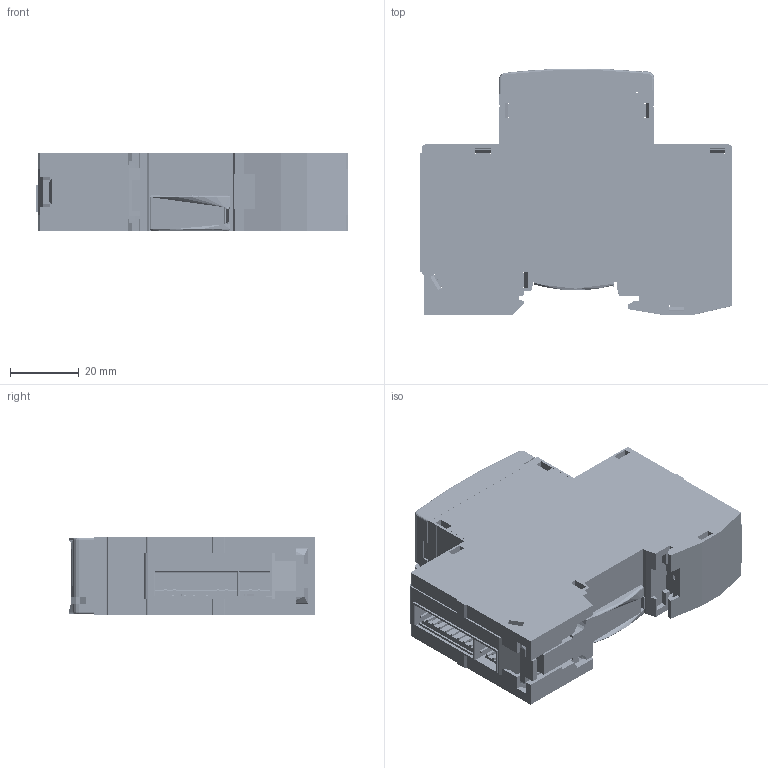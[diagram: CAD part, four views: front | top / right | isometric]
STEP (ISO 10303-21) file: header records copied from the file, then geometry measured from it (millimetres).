
FILE_DESCRIPTION (( 'STEP AP203' ), '1' );
FILE_NAME ('DF-WK6.STEP', '2021-07-07T07:16:11', ( '' ), ( '' ), 'SwSTEP 2.0', 'SolidWorks 2018', '' );
FILE_SCHEMA (( 'CONFIG_CONTROL_DESIGN' ));
Length unit declared in the file: millimetre
Products named in the file (11): 8LD.302.1143_RS485.STEP; 5LD.421.0009_________.STEP; 8LD.302.1144_____2-DIDO.STEP; 8LD.321.1002.STEP; 8LD.143.1054.STEP; DF-WK6; 8LD.253.283.STEP; DF-WK6.STEP; 8LD.300.1296.STEP; 8LD.322.1029.STEP; DIDO-SC66.STEP
Assembly tree (14 placements, depth 4):
  DF-WK6
    DF-WK6.STEP
      5LD.421.0009_________.STEP
        8LD.321.1002.STEP  x3
        8LD.300.1296.STEP
        8LD.322.1029.STEP
        8LD.143.1054.STEP
        8LD.253.283.STEP  x3
      8LD.302.1143_RS485.STEP
      8LD.302.1144_____2-DIDO.STEP
      DIDO-SC66.STEP
Bounding box: 90.52 x 71.59 x 22.5 mm (x, y, z)
Topology: 11 solids, 466 shells, 18826 faces, 49117 edges, 31889 vertices
Faces by surface type: plane 10471, bspline 5208, cylinder 2444, sphere 382, torus 290, cone 31
Full cylindrical faces by diameter (mm): 0.02 x1
Entity records: 971265 total; most frequent: CARTESIAN_POINT 545511, ORIENTED_EDGE 96978, DIRECTION 70150, EDGE_CURVE 48491, LINE 32110, VECTOR 32110, VERTEX_POINT 31735, EDGE_LOOP 20311
